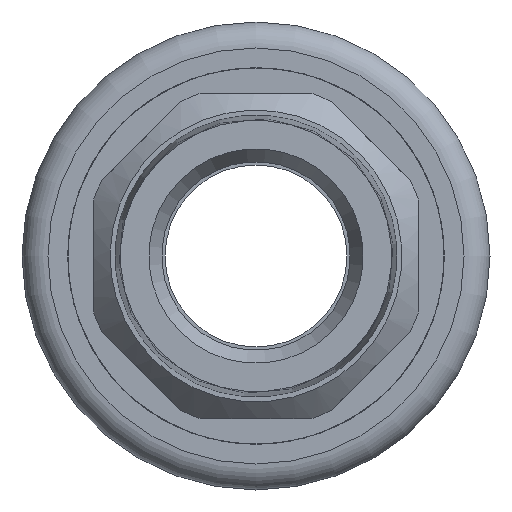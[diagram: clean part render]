
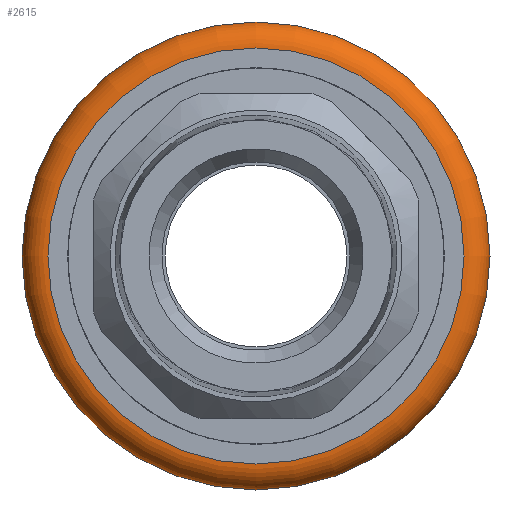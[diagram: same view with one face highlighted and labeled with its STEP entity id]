
A CAD part, left-side view. The second image highlights one B-rep face of the part: STEP entity #2615.
In plain terms, the highlighted toroidal (fillet/blend) face has major radius 16 mm and minor radius 2 mm.
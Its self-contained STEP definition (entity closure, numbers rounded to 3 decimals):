
#94=TOROIDAL_SURFACE('',#3389,16.,2.);
#879=ORIENTED_EDGE('',*,*,#1449,.T.);
#880=ORIENTED_EDGE('',*,*,#1448,.F.);
#1448=EDGE_CURVE('',#1761,#1761,#1975,.T.);
#1449=EDGE_CURVE('',#1762,#1762,#1976,.T.);
#1761=VERTEX_POINT('',#4977);
#1762=VERTEX_POINT('',#4980);
#1975=CIRCLE('',#3388,16.);
#1976=CIRCLE('',#3390,18.);
#2161=EDGE_LOOP('',(#879));
#2162=EDGE_LOOP('',(#880));
#2379=FACE_BOUND('',#2161,.T.);
#2380=FACE_BOUND('',#2162,.T.);
#2615=ADVANCED_FACE('',(#2379,#2380),#94,.T.);
#3388=AXIS2_PLACEMENT_3D('',#4976,#3940,#3941);
#3389=AXIS2_PLACEMENT_3D('',#4978,#3942,#3943);
#3390=AXIS2_PLACEMENT_3D('',#4979,#3944,#3945);
#3940=DIRECTION('',(-1.,0.,0.));
#3941=DIRECTION('',(0.,0.,1.));
#3942=DIRECTION('',(-1.,0.,0.));
#3943=DIRECTION('',(0.,0.,1.));
#3944=DIRECTION('',(-1.,0.,0.));
#3945=DIRECTION('',(0.,0.,1.));
#4976=CARTESIAN_POINT('',(0.,0.,0.));
#4977=CARTESIAN_POINT('',(0.,0.,16.));
#4978=CARTESIAN_POINT('',(2.,0.,0.));
#4979=CARTESIAN_POINT('',(2.,0.,0.));
#4980=CARTESIAN_POINT('',(2.,0.,18.));
